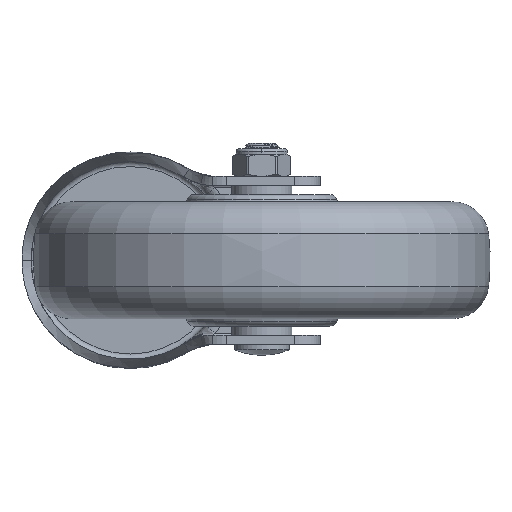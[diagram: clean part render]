
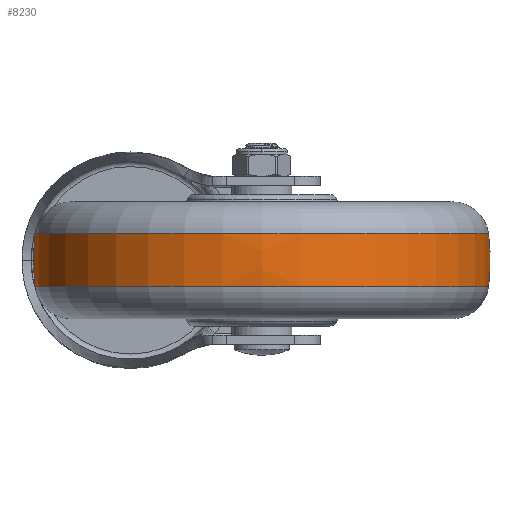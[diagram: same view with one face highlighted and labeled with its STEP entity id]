
A CAD part, front view. The second image highlights one B-rep face of the part: STEP entity #8230.
In plain terms, the highlighted free-form (B-spline) face has degree [3, 3] with [7, 4] control points.
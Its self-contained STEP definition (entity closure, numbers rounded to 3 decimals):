
#7622=CARTESIAN_POINT('',(-7.2,0.,0.));
#7623=DIRECTION('',(-1.,0.,0.));
#7624=DIRECTION('',(0.,1.,0.));
#7625=AXIS2_PLACEMENT_3D('',#7622,#7623,#7624);
#7637=CARTESIAN_POINT('',(0.,2.5,0.));
#7638=DIRECTION('',(0.,0.,1.));
#7639=DIRECTION('',(0.12,0.993,0.));
#7640=AXIS2_PLACEMENT_3D('',#7637,#7638,#7639);
#7642=CARTESIAN_POINT('',(0.,-2.5,0.));
#7643=DIRECTION('',(0.,0.,-1.));
#7644=DIRECTION('',(0.12,-0.993,0.));
#7645=AXIS2_PLACEMENT_3D('',#7642,#7643,#7644);
#7647=CARTESIAN_POINT('',(7.2,0.,0.));
#7648=DIRECTION('',(-1.,0.,0.));
#7649=DIRECTION('',(0.,1.,0.));
#7650=AXIS2_PLACEMENT_3D('',#7647,#7648,#7649);
#7871=CARTESIAN_POINT('',(-7.2,62.066,0.));
#7873=VERTEX_POINT('',#7871);
#7875=CARTESIAN_POINT('',(-7.2,-62.066,
0.));
#7877=VERTEX_POINT('',#7875);
#7904=CARTESIAN_POINT('',(7.2,62.066,0.));
#7906=VERTEX_POINT('',#7904);
#7908=CARTESIAN_POINT('',(7.2,-62.066,
0.));
#7910=VERTEX_POINT('',#7908);
#8194=CARTESIAN_POINT('',(-7.487,-61.909,
3.895));
#8195=CARTESIAN_POINT('',(-2.509,-62.533,
3.934));
#8196=CARTESIAN_POINT('',(2.509,-62.533,3.934));
#8197=CARTESIAN_POINT('',(7.487,-61.909,3.895));
#8198=CARTESIAN_POINT('',(-7.487,-64.306,
-34.204));
#8199=CARTESIAN_POINT('',(-2.509,-64.955,
-34.549));
#8200=CARTESIAN_POINT('',(2.509,-64.955,
-34.549));
#8201=CARTESIAN_POINT('',(7.487,-64.306,
-34.204));
#8202=CARTESIAN_POINT('',(-7.487,-38.174,
-62.031));
#8203=CARTESIAN_POINT('',(-2.509,-38.559,
-62.657));
#8204=CARTESIAN_POINT('',(2.509,-38.559,
-62.657));
#8205=CARTESIAN_POINT('',(7.487,-38.174,
-62.031));
#8206=CARTESIAN_POINT('',(-7.487,0.,
-62.031));
#8207=CARTESIAN_POINT('',(-2.509,0.,
-62.657));
#8208=CARTESIAN_POINT('',(2.509,0.,
-62.657));
#8209=CARTESIAN_POINT('',(7.487,0.,
-62.031));
#8210=CARTESIAN_POINT('',(-7.487,38.174,
-62.031));
#8211=CARTESIAN_POINT('',(-2.509,38.559,
-62.657));
#8212=CARTESIAN_POINT('',(2.509,38.559,-62.657));
#8213=CARTESIAN_POINT('',(7.487,38.174,-62.031));
#8214=CARTESIAN_POINT('',(-7.487,64.306,
-34.204));
#8215=CARTESIAN_POINT('',(-2.509,64.955,
-34.549));
#8216=CARTESIAN_POINT('',(2.509,64.955,-34.549));
#8217=CARTESIAN_POINT('',(7.487,64.306,-34.204));
#8218=CARTESIAN_POINT('',(-7.487,61.909,3.895));
#8219=CARTESIAN_POINT('',(-2.509,62.533,3.934));
#8220=CARTESIAN_POINT('',(2.509,62.533,3.934));
#8221=CARTESIAN_POINT('',(7.487,61.909,3.895));
#8222=(BOUNDED_SURFACE()B_SPLINE_SURFACE(3,3,((#8194,#8195,#8196,#8197),(#8198,
#8199,#8200,#8201),(#8202,#8203,#8204,#8205),(#8206,#8207,#8208,#8209),(#8210,
#8211,#8212,#8213),(#8214,#8215,#8216,#8217),(#8218,#8219,#8220,#8221)),
.UNSPECIFIED.,.F.,.F.,.F.)B_SPLINE_SURFACE_WITH_KNOTS((4,3,4),(4,4),(0.,1.,
2.),(0.,1.),.UNSPECIFIED.)GEOMETRIC_REPRESENTATION_ITEM()RATIONAL_B_SPLINE_SURFACE(((1.192,1.186,1.186,1.192),(
0.941,0.936,0.936,0.941),(
0.941,0.936,0.936,0.941),(
1.192,1.186,1.186,1.192),(
0.941,0.936,0.936,0.941),(
0.941,0.936,0.936,0.941),(
1.192,1.186,1.186,1.192)))REPRESENTATION_ITEM('')SURFACE());
#8223=ORIENTED_EDGE('',*,*,#8184,.T.);
#8224=ORIENTED_EDGE('',*,*,#8137,.T.);
#8225=ORIENTED_EDGE('',*,*,#8188,.F.);
#8227=ORIENTED_EDGE('',*,*,#8226,.F.);
#8228=EDGE_LOOP('',(#8223,#8224,#8225,#8227));
#8229=FACE_OUTER_BOUND('',#8228,.F.);
#7626=CIRCLE('',#7625,62.066);
#7641=CIRCLE('',#7640,60.);
#7646=CIRCLE('',#7645,60.);
#7651=CIRCLE('',#7650,62.066);
#8137=EDGE_CURVE('',#7873,#7877,#7626,.T.);
#8184=EDGE_CURVE('',#7906,#7873,#7641,.T.);
#8188=EDGE_CURVE('',#7910,#7877,#7646,.T.);
#8226=EDGE_CURVE('',#7906,#7910,#7651,.T.);
#8230=ADVANCED_FACE('',(#8229),#8222,.T.);
